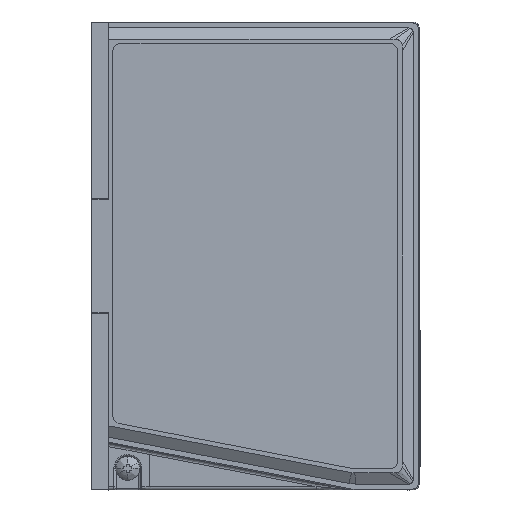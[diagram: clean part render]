
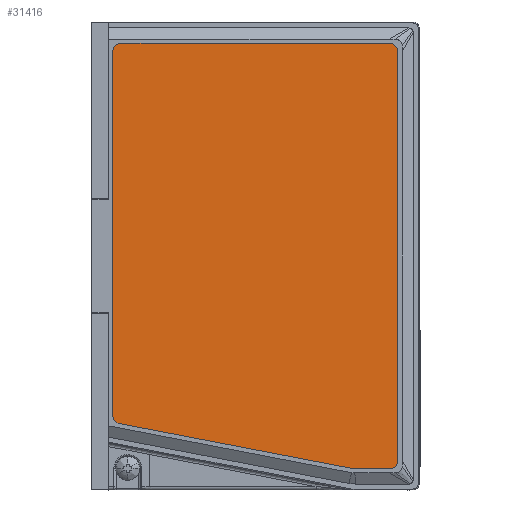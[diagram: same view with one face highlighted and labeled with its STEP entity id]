
A CAD part, left-side view. The second image highlights one B-rep face of the part: STEP entity #31416.
In plain terms, the highlighted planar face has unit normal (-1, 0, 0).
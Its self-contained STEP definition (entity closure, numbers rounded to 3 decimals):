
#15502=B_SPLINE_CURVE_WITH_KNOTS('',2,(#167369,#167370,#167371),
 .UNSPECIFIED.,.F.,.F.,(3,3),(-0.561,7.684),
 .UNSPECIFIED.);
#15503=B_SPLINE_CURVE_WITH_KNOTS('',3,(#167372,#167373,#167374,#167375),
 .UNSPECIFIED.,.F.,.F.,(4,4),(7.309,63.136),
 .UNSPECIFIED.);
#15504=B_SPLINE_CURVE_WITH_KNOTS('',1,(#167379,#167380),.UNSPECIFIED.,.F.,
 .F.,(2,2),(0.,85.622),.UNSPECIFIED.);
#15505=B_SPLINE_CURVE_WITH_KNOTS('',2,(#167384,#167385,#167386),
 .UNSPECIFIED.,.F.,.F.,(3,3),(-167.493,-104.293),
 .UNSPECIFIED.);
#15506=B_SPLINE_CURVE_WITH_KNOTS('',2,(#167390,#167391,#167392),
 .UNSPECIFIED.,.F.,.F.,(3,3),(-100.643,-4.443),
 .UNSPECIFIED.);
#31416=ADVANCED_FACE('',(#34790),#101201,.T.);
#34790=FACE_OUTER_BOUND('',#38273,.T.);
#38273=EDGE_LOOP('',(#55250,#55251,#55252,#55253,#55254,#55255,#55256,#55257,
#55258,#55259));
#55250=ORIENTED_EDGE('',*,*,#74645,.F.);
#55251=ORIENTED_EDGE('',*,*,#74644,.T.);
#55252=ORIENTED_EDGE('',*,*,#74643,.F.);
#55253=ORIENTED_EDGE('',*,*,#74642,.T.);
#55254=ORIENTED_EDGE('',*,*,#74641,.F.);
#55255=ORIENTED_EDGE('',*,*,#74640,.T.);
#55256=ORIENTED_EDGE('',*,*,#74639,.F.);
#55257=ORIENTED_EDGE('',*,*,#74646,.T.);
#55258=ORIENTED_EDGE('',*,*,#74638,.F.);
#55259=ORIENTED_EDGE('',*,*,#74637,.T.);
#74637=EDGE_CURVE('',#95641,#95640,#78703,.T.);
#74638=EDGE_CURVE('',#95641,#95642,#15502,.T.);
#74639=EDGE_CURVE('',#95643,#95644,#15503,.T.);
#74640=EDGE_CURVE('',#95645,#95644,#78704,.T.);
#74641=EDGE_CURVE('',#95645,#95646,#15504,.T.);
#74642=EDGE_CURVE('',#95647,#95646,#78705,.T.);
#74643=EDGE_CURVE('',#95647,#95648,#15505,.T.);
#74644=EDGE_CURVE('',#95649,#95648,#78706,.T.);
#74645=EDGE_CURVE('',#95649,#95640,#15506,.T.);
#74646=EDGE_CURVE('',#95643,#95642,#78707,.T.);
#78703=(
BOUNDED_CURVE()
B_SPLINE_CURVE(2,(#167366,#167367,#167368),.UNSPECIFIED.,.F.,.F.)
B_SPLINE_CURVE_WITH_KNOTS((3,3),(-2.985,0.),.UNSPECIFIED.)
CURVE()
GEOMETRIC_REPRESENTATION_ITEM()
RATIONAL_B_SPLINE_CURVE((1.,0.707,1.))
REPRESENTATION_ITEM('')
);
#78704=(
BOUNDED_CURVE()
B_SPLINE_CURVE(2,(#167376,#167377,#167378),.UNSPECIFIED.,.F.,.F.)
B_SPLINE_CURVE_WITH_KNOTS((3,3),(-2.623,0.),.UNSPECIFIED.)
CURVE()
GEOMETRIC_REPRESENTATION_ITEM()
RATIONAL_B_SPLINE_CURVE((1.,0.771,1.))
REPRESENTATION_ITEM('')
);
#78705=(
BOUNDED_CURVE()
B_SPLINE_CURVE(2,(#167381,#167382,#167383),.UNSPECIFIED.,.F.,.F.)
B_SPLINE_CURVE_WITH_KNOTS((3,3),(0.,2.985),.UNSPECIFIED.)
CURVE()
GEOMETRIC_REPRESENTATION_ITEM()
RATIONAL_B_SPLINE_CURVE((1.,0.707,1.))
REPRESENTATION_ITEM('')
);
#78706=(
BOUNDED_CURVE()
B_SPLINE_CURVE(2,(#167387,#167388,#167389),.UNSPECIFIED.,.F.,.F.)
B_SPLINE_CURVE_WITH_KNOTS((3,3),(-2.985,0.),.UNSPECIFIED.)
CURVE()
GEOMETRIC_REPRESENTATION_ITEM()
RATIONAL_B_SPLINE_CURVE((1.,0.707,1.))
REPRESENTATION_ITEM('')
);
#78707=(
BOUNDED_CURVE()
B_SPLINE_CURVE(2,(#167393,#167394,#167395),.UNSPECIFIED.,.F.,.F.)
B_SPLINE_CURVE_WITH_KNOTS((3,3),(-0.499,0.),.UNSPECIFIED.)
CURVE()
GEOMETRIC_REPRESENTATION_ITEM()
RATIONAL_B_SPLINE_CURVE((1.,0.995,1.))
REPRESENTATION_ITEM('')
);
#95640=VERTEX_POINT('',#167356);
#95641=VERTEX_POINT('',#167357);
#95642=VERTEX_POINT('',#167358);
#95643=VERTEX_POINT('',#167359);
#95644=VERTEX_POINT('',#167360);
#95645=VERTEX_POINT('',#167361);
#95646=VERTEX_POINT('',#167362);
#95647=VERTEX_POINT('',#167363);
#95648=VERTEX_POINT('',#167364);
#95649=VERTEX_POINT('',#167365);
#101201=PLANE('',#104171);
#104171=AXIS2_PLACEMENT_3D('',#167355,#107124,$);
#107124=DIRECTION('',(-1.,0.,0.));
#167355=CARTESIAN_POINT('',(452.458,-151.047,231.975));
#167356=CARTESIAN_POINT('',(452.458,-144.287,123.815));
#167357=CARTESIAN_POINT('',(452.458,-142.387,121.915));
#167358=CARTESIAN_POINT('',(452.458,-134.142,121.915));
#167359=CARTESIAN_POINT('',(452.458,-133.646,121.962));
#167360=CARTESIAN_POINT('',(452.458,-78.828,132.527));
#167361=CARTESIAN_POINT('',(452.458,-77.287,134.393));
#167362=CARTESIAN_POINT('',(452.458,-77.287,220.015));
#167363=CARTESIAN_POINT('',(452.458,-79.187,221.915));
#167364=CARTESIAN_POINT('',(452.458,-142.387,221.915));
#167365=CARTESIAN_POINT('',(452.458,-144.287,220.015));
#167366=CARTESIAN_POINT('',(452.458,-142.387,121.915));
#167367=CARTESIAN_POINT('',(452.458,-144.287,121.915));
#167368=CARTESIAN_POINT('',(452.458,-144.287,123.815));
#167369=CARTESIAN_POINT('',(452.458,-142.387,121.915));
#167370=CARTESIAN_POINT('',(452.458,-138.264,121.915));
#167371=CARTESIAN_POINT('',(452.458,-134.142,121.915));
#167372=CARTESIAN_POINT('',(452.458,-133.646,121.962));
#167373=CARTESIAN_POINT('',(452.458,-115.373,125.484));
#167374=CARTESIAN_POINT('',(452.458,-97.1,129.005));
#167375=CARTESIAN_POINT('',(452.458,-78.828,132.527));
#167376=CARTESIAN_POINT('',(452.458,-77.287,134.393));
#167377=CARTESIAN_POINT('',(452.458,-77.287,132.824));
#167378=CARTESIAN_POINT('',(452.458,-78.828,132.527));
#167379=CARTESIAN_POINT('',(452.458,-77.287,134.393));
#167380=CARTESIAN_POINT('',(452.458,-77.287,220.015));
#167381=CARTESIAN_POINT('',(452.458,-79.187,221.915));
#167382=CARTESIAN_POINT('',(452.458,-77.287,221.915));
#167383=CARTESIAN_POINT('',(452.458,-77.287,220.015));
#167384=CARTESIAN_POINT('',(452.458,-79.187,221.915));
#167385=CARTESIAN_POINT('',(452.458,-110.787,221.915));
#167386=CARTESIAN_POINT('',(452.458,-142.387,221.915));
#167387=CARTESIAN_POINT('',(452.458,-144.287,220.015));
#167388=CARTESIAN_POINT('',(452.458,-144.287,221.915));
#167389=CARTESIAN_POINT('',(452.458,-142.387,221.915));
#167390=CARTESIAN_POINT('',(452.458,-144.287,220.015));
#167391=CARTESIAN_POINT('',(452.458,-144.287,171.915));
#167392=CARTESIAN_POINT('',(452.458,-144.287,123.815));
#167393=CARTESIAN_POINT('',(452.458,-133.646,121.962));
#167394=CARTESIAN_POINT('',(452.458,-133.892,121.915));
#167395=CARTESIAN_POINT('',(452.458,-134.142,121.915));
